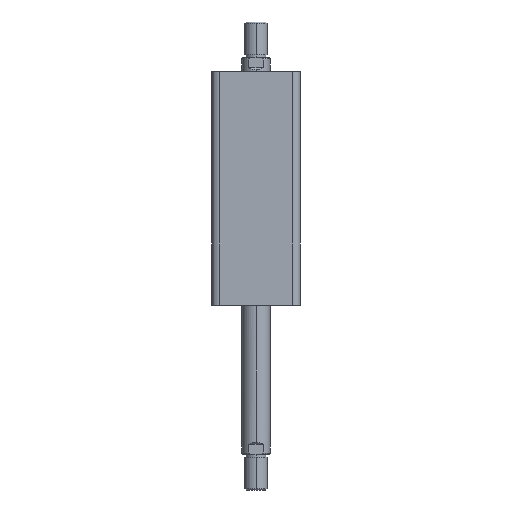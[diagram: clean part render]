
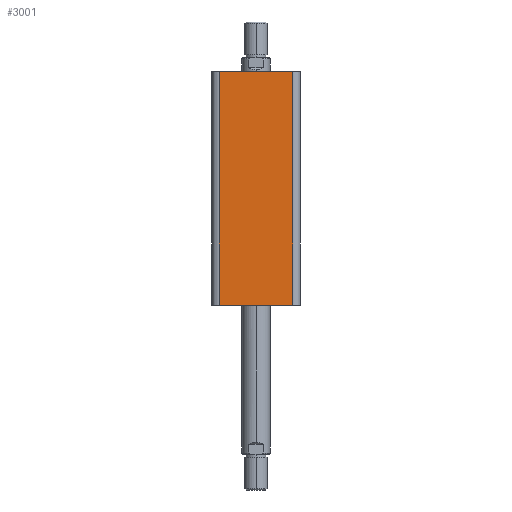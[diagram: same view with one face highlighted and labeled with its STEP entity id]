
A CAD part, left-side view. The second image highlights one B-rep face of the part: STEP entity #3001.
In plain terms, the highlighted planar face has unit normal (-1, 0, 0).
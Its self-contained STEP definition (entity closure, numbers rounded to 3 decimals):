
#217 = LINE ( 'NONE', #2718, #226 ) ;
#221 = LINE ( 'NONE', #2729, #224 ) ;
#224 = VECTOR ( 'NONE', #2730, 1000. ) ;
#225 = LINE ( 'NONE', #2732, #228 ) ;
#226 = VECTOR ( 'NONE', #2731, 1000. ) ;
#227 = LINE ( 'NONE', #2734, #230 ) ;
#228 = VECTOR ( 'NONE', #2733, 1000. ) ;
#230 = VECTOR ( 'NONE', #2735, 1000. ) ;
#269 = FACE_OUTER_BOUND ( 'NONE', #2516, .T. ) ;
#357 = CARTESIAN_POINT ( 'NONE',  ( -31., -26., 164. ) ) ;
#358 = CARTESIAN_POINT ( 'NONE',  ( -31., 26., 164. ) ) ;
#362 = CARTESIAN_POINT ( 'NONE',  ( -31., -26., 0. ) ) ;
#367 = CARTESIAN_POINT ( 'NONE',  ( -31., 26., 0. ) ) ;
#674 = ORIENTED_EDGE ( 'NONE', *, *, #2965, .T. ) ;
#675 = ORIENTED_EDGE ( 'NONE', *, *, #2966, .T. ) ;
#676 = ORIENTED_EDGE ( 'NONE', *, *, #2967, .F. ) ;
#677 = ORIENTED_EDGE ( 'NONE', *, *, #2968, .T. ) ;
#1264 = VERTEX_POINT ( 'NONE', #362 ) ;
#1265 = VERTEX_POINT ( 'NONE', #367 ) ;
#1270 = VERTEX_POINT ( 'NONE', #358 ) ;
#1271 = VERTEX_POINT ( 'NONE', #357 ) ;
#1996 = CARTESIAN_POINT ( 'NONE',  ( -31., 31., 164. ) ) ;
#1998 = DIRECTION ( 'NONE',  ( 1., 0., 0. ) ) ;
#1999 = DIRECTION ( 'NONE',  ( 0., 1., 0. ) ) ;
#2493 = AXIS2_PLACEMENT_3D ( 'NONE', #1996, #1998, #1999 ) ;
#2516 = EDGE_LOOP ( 'NONE', ( #674, #675, #676, #677 ) ) ;
#2718 = CARTESIAN_POINT ( 'NONE',  ( -31., -26., 164. ) ) ;
#2729 = CARTESIAN_POINT ( 'NONE',  ( -31., 31., 0. ) ) ;
#2730 = DIRECTION ( 'NONE',  ( 0., -1., 0. ) ) ;
#2731 = DIRECTION ( 'NONE',  ( 0., 0., 1. ) ) ;
#2732 = CARTESIAN_POINT ( 'NONE',  ( -31., 31., 164. ) ) ;
#2733 = DIRECTION ( 'NONE',  ( 0., -1., 0. ) ) ;
#2734 = CARTESIAN_POINT ( 'NONE',  ( -31., 26., 164. ) ) ;
#2735 = DIRECTION ( 'NONE',  ( 0., 0., -1. ) ) ;
#2823 = PLANE ( 'NONE',  #2493 ) ;
#2965 = EDGE_CURVE ( 'NONE', #1265, #1264, #221, .T. ) ;
#2966 = EDGE_CURVE ( 'NONE', #1264, #1271, #217, .T. ) ;
#2967 = EDGE_CURVE ( 'NONE', #1270, #1271, #225, .T. ) ;
#2968 = EDGE_CURVE ( 'NONE', #1270, #1265, #227, .T. ) ;
#3001 = ADVANCED_FACE ( 'NONE', ( #269 ), #2823, .F. ) ;
